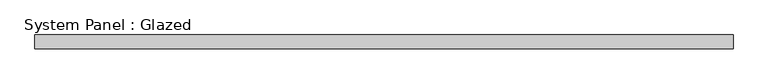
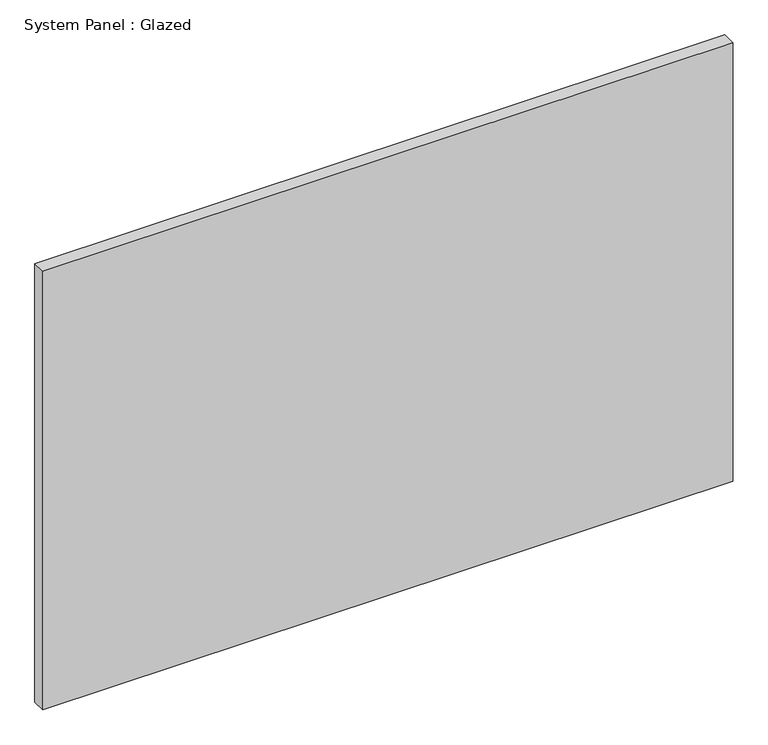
"""IFC4 building model written with IfcOpenShell, lengths in millimetres: plate geometry, System Panel : Glazed."""

from ifc_helpers import new_model, si_unit, origin, origin_with_axes, place, context, project, spatial, polyline, outline, extrude, source, transform, mapped, element, save


def system_panel_glazed_e70ec364(model_context):
    return source(origin(), model_context, "Body", "SweptSolid", [
        extrude(outline(polyline([(647.7, 19.05), (-647.7, 19.05), (-647.7, 44.45), (647.7, 44.45), (647.7, 19.05)])), origin_with_axes(), (0.0, 0.0, 1.0), 869.95),
    ])


if __name__ == "__main__":
    model = new_model("IFC4")
    model_context = context("Model", 3, world=origin())
    ifc_project = project(units=[si_unit("LENGTHUNIT", "METRE", prefix="MILLI")], contexts=[model_context])
    site = spatial("IfcSite", under=ifc_project)
    building = spatial("IfcBuilding", under=site)
    placement = place(None, origin())
    system_panel_glazed_shape = system_panel_glazed_e70ec364(model_context)
    element("IfcPlate", 1, ObjectType="System Panel : Glazed", at=placement, inside=building, context=model_context, shape_type="MappedRepresentation", body=[
        mapped(system_panel_glazed_shape, transform((0.0, 0.0, 0.0), x_axis=(1.0, 0.0, 0.0), y_axis=(0.0, 1.0, 0.0), z_axis=(0.0, 0.0, 1.0))),
    ])
    save(model, "model.ifc")
